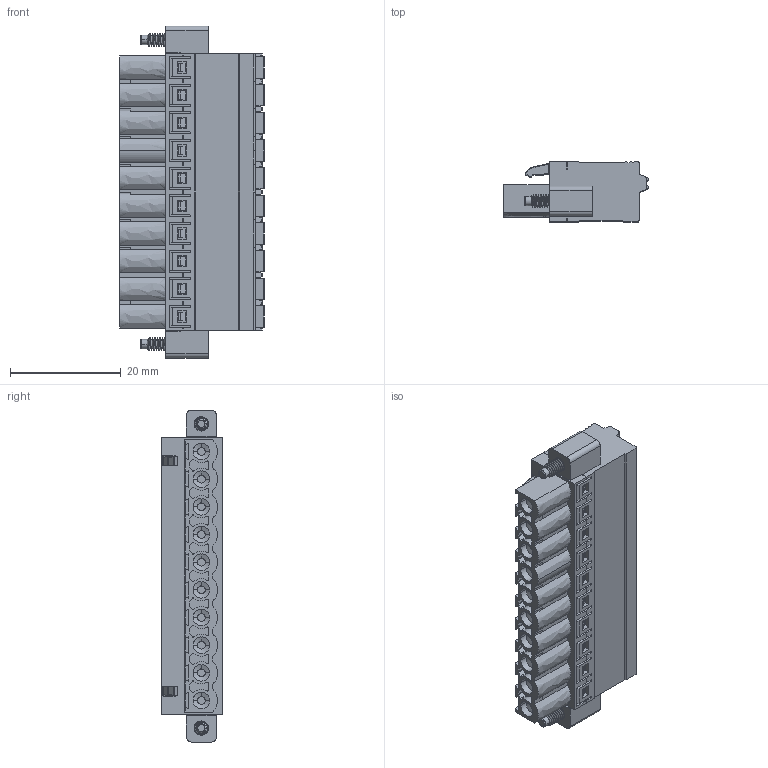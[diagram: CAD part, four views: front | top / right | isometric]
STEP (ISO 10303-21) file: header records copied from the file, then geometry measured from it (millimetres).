
FILE_DESCRIPTION(('Open CASCADE Model'),'2;1');
FILE_NAME('Open CASCADE Shape Model','2022-10-26T14:21:20',('Author'),( 'Open CASCADE'),'Open CASCADE STEP processor 6.5','Open CASCADE 6.5' ,'Unknown');
FILE_SCHEMA(('AUTOMOTIVE_DESIGN { 1 0 10303 214 1 1 1 1 }'));
Length unit declared in the file: millimetre
Products named in the file (1959): CADSOFTTOOLS 1; CADSOFTTOOLS 1.1; CADSOFTTOOLS 1.2; CADSOFTTOOLS 1.3; CADSOFTTOOLS 1.4; CADSOFTTOOLS 1.5; CADSOFTTOOLS 1.6; CADSOFTTOOLS 1.7; CADSOFTTOOLS 1.8; CADSOFTTOOLS 1.9; CADSOFTTOOLS 1.10; CADSOFTTOOLS 1.11; CADSOFTTOOLS 1.12; CADSOFTTOOLS 1.13; CADSOFTTOOLS 1.14; CADSOFTTOOLS 1.15; CADSOFTTOOLS 1.16; CADSOFTTOOLS 1.17; CADSOFTTOOLS 1.18; CADSOFTTOOLS 1.19; CADSOFTTOOLS 1.20; CADSOFTTOOLS 1.21; CADSOFTTOOLS 1.22; CADSOFTTOOLS 1.23; CADSOFTTOOLS 1.24; CADSOFTTOOLS 1.25; CADSOFTTOOLS 1.26; CADSOFTTOOLS 1.27; CADSOFTTOOLS 1.28; CADSOFTTOOLS 1.29; CADSOFTTOOLS 1.30; CADSOFTTOOLS 1.31; CADSOFTTOOLS 1.32; CADSOFTTOOLS 1.33; CADSOFTTOOLS 1.34; CADSOFTTOOLS 1.35; CADSOFTTOOLS 1.36; CADSOFTTOOLS 1.37; CADSOFTTOOLS 1.38; CADSOFTTOOLS 1.39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
Assembly tree (1958 placements, depth 2):
  CADSOFTTOOLS 1
    CADSOFTTOOLS 1.1
    CADSOFTTOOLS 1.2
    CADSOFTTOOLS 1.3
    CADSOFTTOOLS 1.4
    CADSOFTTOOLS 1.5
    CADSOFTTOOLS 1.6
    CADSOFTTOOLS 1.7
    CADSOFTTOOLS 1.8
    CADSOFTTOOLS 1.9
    CADSOFTTOOLS 1.10
    CADSOFTTOOLS 1.11
    CADSOFTTOOLS 1.12
    CADSOFTTOOLS 1.13
    CADSOFTTOOLS 1.14
    CADSOFTTOOLS 1.15
    CADSOFTTOOLS 1.16
    CADSOFTTOOLS 1.17
    CADSOFTTOOLS 1.18
    CADSOFTTOOLS 1.19
    CADSOFTTOOLS 1.20
    CADSOFTTOOLS 1.21
    CADSOFTTOOLS 1.22
    CADSOFTTOOLS 1.23
    CADSOFTTOOLS 1.24
    CADSOFTTOOLS 1.25
    CADSOFTTOOLS 1.26
    CADSOFTTOOLS 1.27
    CADSOFTTOOLS 1.28
    CADSOFTTOOLS 1.29
    CADSOFTTOOLS 1.30
    CADSOFTTOOLS 1.31
    CADSOFTTOOLS 1.32
    CADSOFTTOOLS 1.33
    CADSOFTTOOLS 1.34
    CADSOFTTOOLS 1.35
    CADSOFTTOOLS 1.36
    CADSOFTTOOLS 1.37
    CADSOFTTOOLS 1.38
    CADSOFTTOOLS 1.39
    CADSOFTTOOLS 1.40
    CADSOFTTOOLS 1.41
    CADSOFTTOOLS 1.42
    CADSOFTTOOLS 1.43
    CADSOFTTOOLS 1.44
    CADSOFTTOOLS 1.45
    CADSOFTTOOLS 1.46
    CADSOFTTOOLS 1.47
    CADSOFTTOOLS 1.48
    CADSOFTTOOLS 1.49
    CADSOFTTOOLS 1.50
    CADSOFTTOOLS 1.51
    CADSOFTTOOLS 1.52
    CADSOFTTOOLS 1.53
    CADSOFTTOOLS 1.54
    CADSOFTTOOLS 1.55
    CADSOFTTOOLS 1.56
    CADSOFTTOOLS 1.57
    CADSOFTTOOLS 1.58
    CADSOFTTOOLS 1.59
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Bounding box: 26.2 x 10.9 x 60 mm (x, y, z)
Surface area: 8690.7 mm2 (no closed solid volume)
Topology: 0 solids, 1958 shells, 1958 faces, 11174 edges, 11174 vertices
Faces by surface type: bspline 1958
Entity records: 374479 total; most frequent: CARTESIAN_POINT 242291, B_SPLINE_CURVE_WITH_KNOTS 20193, ORIENTED_EDGE 11174, EDGE_CURVE 11174, VERTEX_POINT 11174, SURFACE_CURVE 11174, PCURVE 11174, DEFINITIONAL_REPRESENTATION 11174
